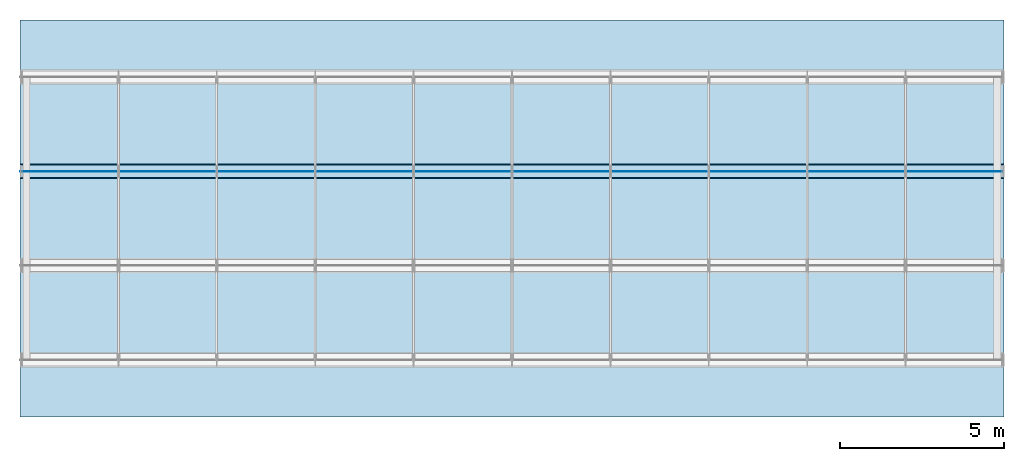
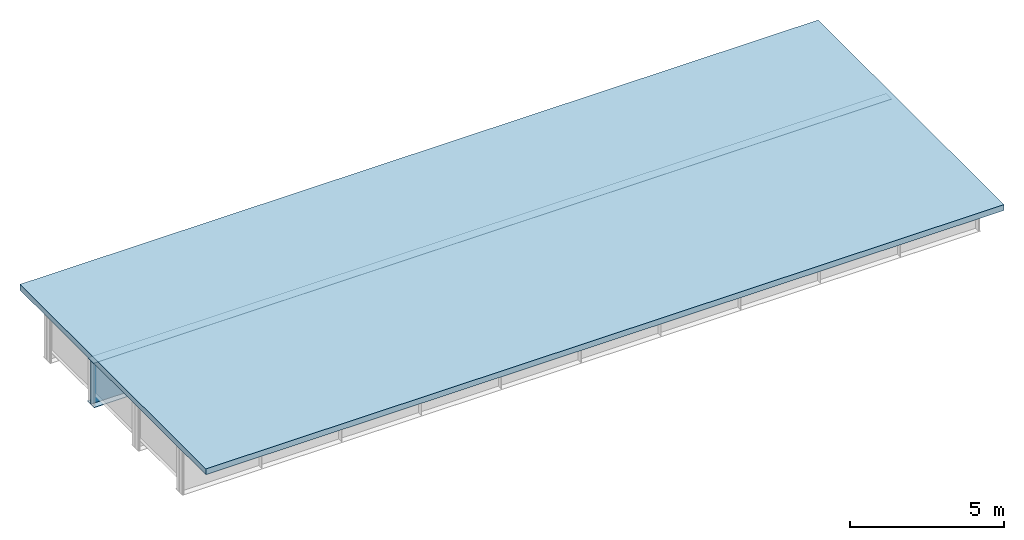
# One storey, part 7 of 11: 3 plates, 1 slab.
"""IFC4 building model written with IfcOpenShell, lengths in metres."""

from ifc_helpers import new_model, si_unit, frame, origin, origin_with_axes, origin_2d_with_axis, place, context, subcontext, project, spatial, polyline, rectangle, outline, extrude, element, save


model = new_model("IFC4")

# Units and contexts
model_context = context("Model", 3, precision=1e-05, world=origin())
body_context = subcontext(model_context, "Body", "Model", "MODEL_VIEW")
ifc_project = project(units=[si_unit("LENGTHUNIT", "METRE"), si_unit("AREAUNIT", "SQUARE_METRE"), si_unit("VOLUMEUNIT", "CUBIC_METRE"), si_unit("PLANEANGLEUNIT", "RADIAN")], contexts=[model_context])

# Site, building, storey
site_placement = place(None, origin_with_axes())
site = spatial("IfcSite", under=ifc_project, at=site_placement, Name="Default Site")
building_placement = place(site_placement, origin_with_axes())
building = spatial("IfcBuilding", under=site, at=building_placement, Name="Bridge Structure")
storey_placement = place(building_placement, origin_with_axes())
storey = spatial("IfcBuildingStorey", under=building, at=storey_placement, Name="Superstructure")

# Plates
plate_1_placement = place(storey_placement, frame((0.0, 1.4375, 0.0), z_axis=(1.0, 0.0, 0.0), x_axis=(0.0, 1.0, 0.0)))
element("IfcPlate", 1, at=plate_1_placement, inside=storey, Name="Girder Web 3", context=body_context, shape_type="SweptSolid", body=[
    extrude(rectangle(XDim=0.014, YDim=1.712, at=origin_2d_with_axis()), origin_with_axes(), (0.0, 0.0, 1.0), 30.0),
])
plate_2_placement = place(storey_placement, frame((0.0, 1.4375, 0.865), z_axis=(1.0, 0.0, 0.0), x_axis=(0.0, 1.0, 0.0)))
element("IfcPlate", 2, at=plate_2_placement, inside=storey, Name="Top Flange 3", context=body_context, shape_type="SweptSolid", body=[
    extrude(rectangle(XDim=0.375, YDim=0.018000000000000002, at=origin_2d_with_axis()), origin_with_axes(), (0.0, 0.0, 1.0), 30.0),
])
plate_3_placement = place(storey_placement, frame((0.0, 1.4375, -0.866), z_axis=(1.0, 0.0, 0.0), x_axis=(0.0, 1.0, 0.0)))
element("IfcPlate", 3, at=plate_3_placement, inside=storey, Name="Bottom Flange 3", context=body_context, shape_type="SweptSolid", body=[
    extrude(rectangle(XDim=0.45, YDim=0.02, at=origin_2d_with_axis()), origin_with_axes(), (0.0, 0.0, 1.0), 30.0),
])

# Slab
slab_placement = place(storey_placement, frame((0.0, 0.0, 0.874), z_axis=(0.0, 0.0, 1.0), x_axis=(1.0, 0.0, 0.0)))
element("IfcSlab", 4, at=slab_placement, inside=storey, Name="Deck Slab", context=body_context, shape_type="SweptSolid", body=[
    extrude(outline(polyline([(0.0, -6.05), (30.0, -6.05), (30.0, 6.05), (0.0, 6.05), (0.0, -6.05)])), origin_with_axes(), (0.0, 0.0, 1.0), 0.23),
])

save(model, "model.ifc")
